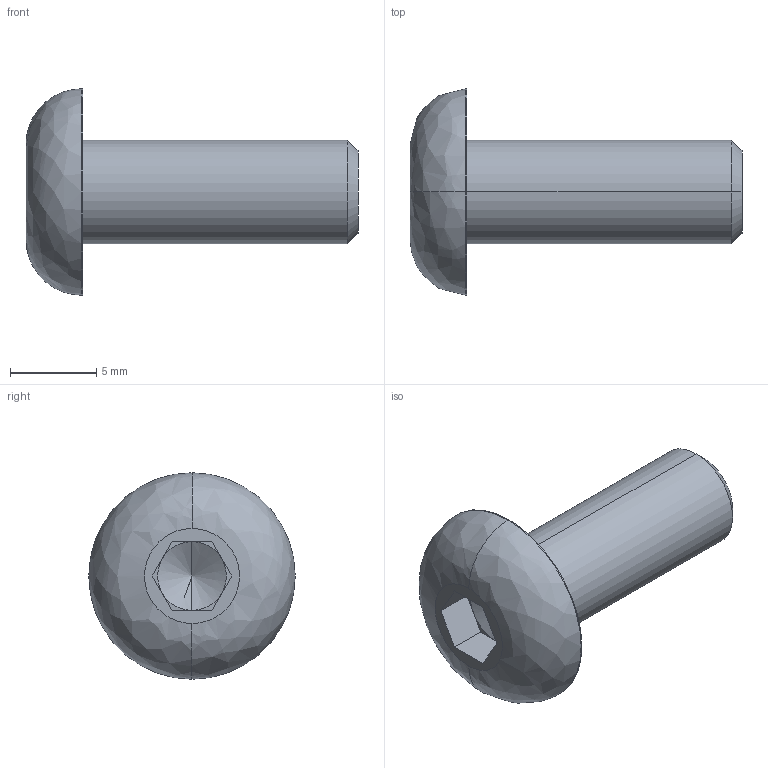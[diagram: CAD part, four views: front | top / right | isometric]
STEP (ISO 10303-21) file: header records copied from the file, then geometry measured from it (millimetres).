
FILE_DESCRIPTION (( 'STEP AP214' ), '1' );
FILE_NAME ('ISO7380_6x16.STEP', '2016-05-18T14:45:19', ( '' ), ( '' ), 'SwSTEP 2.0', 'SolidWorks 2014', '' );
FILE_SCHEMA (( 'AUTOMOTIVE_DESIGN' ));
Length unit declared in the file: millimetre
Products named in the file (1): ISO7380_6x16
Bounding box: 19.3 x 12 x 12 mm (x, y, z)
Volume: 713.1 mm3; surface area: 619.5 mm2
Topology: 1 solids, 1 shells, 28 faces, 62 edges, 36 vertices
Faces by surface type: plane 15, cylinder 7, cone 4, bspline 2
Entity records: 808 total; most frequent: CARTESIAN_POINT 164, DIRECTION 135, ORIENTED_EDGE 120, EDGE_CURVE 60, AXIS2_PLACEMENT_3D 51, VERTEX_POINT 36, VECTOR 33, LINE 33
